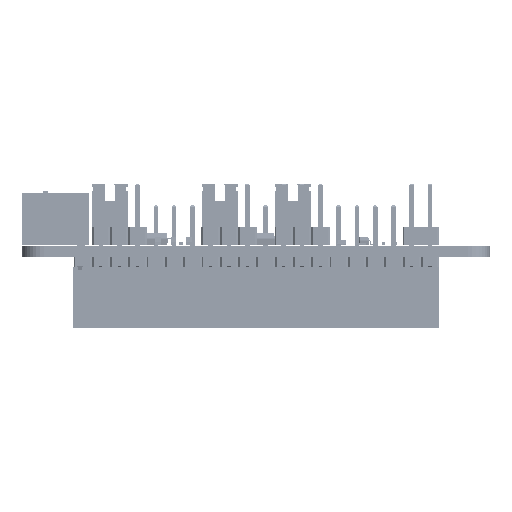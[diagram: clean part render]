
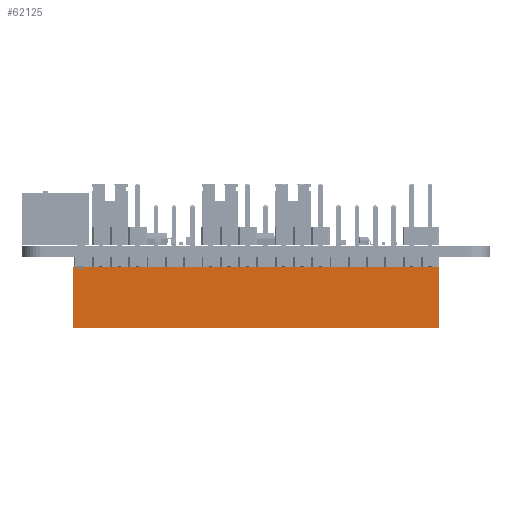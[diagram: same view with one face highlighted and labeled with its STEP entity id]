
A CAD part, front view. The second image highlights one B-rep face of the part: STEP entity #62125.
In plain terms, the highlighted planar face has unit normal (0, -1, 0) as drawn and (-1, 0, 0) by its records, which use the part's own axes.
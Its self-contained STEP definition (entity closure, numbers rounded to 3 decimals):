
#57902 = VERTEX_POINT('',#57903);
#57903 = CARTESIAN_POINT('',(-3.81,-49.53,0.));
#57911 = EDGE_CURVE('',#57902,#57912,#57914,.T.);
#57912 = VERTEX_POINT('',#57913);
#57913 = CARTESIAN_POINT('',(-3.81,-49.53,8.5));
#57914 = LINE('',#57915,#57916);
#57915 = CARTESIAN_POINT('',(-3.81,-49.53,0.));
#57916 = VECTOR('',#57917,1.);
#57917 = DIRECTION('',(0.,0.,1.));
#57974 = VERTEX_POINT('',#57975);
#57975 = CARTESIAN_POINT('',(-3.81,1.27,8.5));
#57981 = EDGE_CURVE('',#57982,#57974,#57984,.T.);
#57982 = VERTEX_POINT('',#57983);
#57983 = CARTESIAN_POINT('',(-3.81,1.27,0.));
#57984 = LINE('',#57985,#57986);
#57985 = CARTESIAN_POINT('',(-3.81,1.27,0.));
#57986 = VECTOR('',#57987,1.);
#57987 = DIRECTION('',(0.,0.,1.));
#58046 = EDGE_CURVE('',#57974,#57912,#58047,.T.);
#58047 = LINE('',#58048,#58049);
#58048 = CARTESIAN_POINT('',(-3.81,1.27,8.5));
#58049 = VECTOR('',#58050,1.);
#58050 = DIRECTION('',(0.,-1.,0.));
#59429 = EDGE_CURVE('',#57982,#57902,#59430,.T.);
#59430 = LINE('',#59431,#59432);
#59431 = CARTESIAN_POINT('',(-3.81,1.27,0.));
#59432 = VECTOR('',#59433,1.);
#59433 = DIRECTION('',(0.,-1.,0.));
#62125 = ADVANCED_FACE('',(#62126),#62132,.F.);
#62126 = FACE_BOUND('',#62127,.F.);
#62127 = EDGE_LOOP('',(#62128,#62129,#62130,#62131));
#62128 = ORIENTED_EDGE('',*,*,#57981,.T.);
#62129 = ORIENTED_EDGE('',*,*,#58046,.T.);
#62130 = ORIENTED_EDGE('',*,*,#57911,.F.);
#62131 = ORIENTED_EDGE('',*,*,#59429,.F.);
#62132 = PLANE('',#62133);
#62133 = AXIS2_PLACEMENT_3D('',#62134,#62135,#62136);
#62134 = CARTESIAN_POINT('',(-3.81,1.27,0.));
#62135 = DIRECTION('',(1.,0.,0.));
#62136 = DIRECTION('',(0.,-1.,0.));
